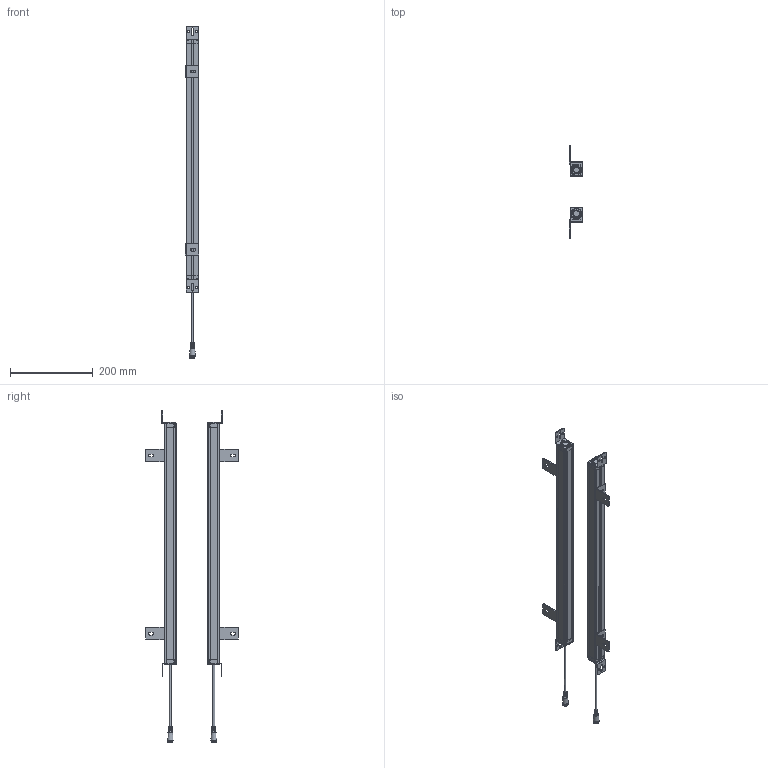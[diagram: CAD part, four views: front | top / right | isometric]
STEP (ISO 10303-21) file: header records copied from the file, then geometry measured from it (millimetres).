
FILE_DESCRIPTION(/* description */ (''),/* implementation_level */ '2;1');
FILE_NAME(/* name */ '1440（29x30）_stp_stp.stp',/* time_stamp */ '2023-04-28T10:23:45+08:00',/* author */ (''),/* organization */ (''),/* preprocessor_version */ 'ST-DEVELOPER v16.7',/* originating_system */ 'SIEMENS PLM Software NX 12.0',/* authorisation */ '');
FILE_SCHEMA (('AUTOMOTIVE_DESIGN { 1 0 10303 214 3 1 1 1 }'));
Products named in the file (1): 1440（29x30）_stp_stp_stp
Bounding box: 32.03 x 223.99 x 801 mm (x, y, z)
Volume: 384880.2 mm3; surface area: 399599.3 mm2
Topology: 34 solids, 34 shells, 1610 faces, 4267 edges, 2771 vertices
Faces by surface type: plane 750, cylinder 648, bspline 88, sphere 36, cone 36, torus 32, extrusion 20
Full cylindrical faces by diameter (mm): 1.533 x6, 4.4 x4, 9 x2, 12.5 x2
Entity records: 56427 total; most frequent: CARTESIAN_POINT 16064, DIRECTION 8330, ORIENTED_EDGE 8324, EDGE_CURVE 4162, AXIS2_PLACEMENT_3D 2918, VERTEX_POINT 2696, VECTOR 2494, LINE 2474
